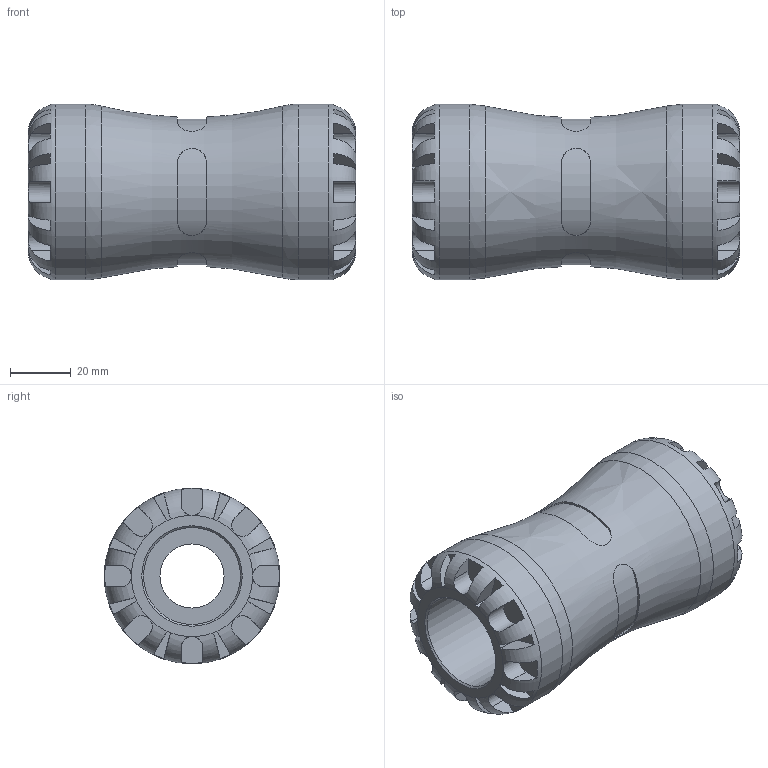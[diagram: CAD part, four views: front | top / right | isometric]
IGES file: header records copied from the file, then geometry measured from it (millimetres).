
Global section: file name: 1001M6032010.ipt; native system: Autodesk Inventor 2015; preprocessor: unknown; author: KIM; date: 20170122.104726; units: millimetre
Bounding box: 108 x 58 x 58 mm (x, y, z)
Volume: 169716.4 mm3; surface area: 34539.2 mm2
Topology: 1 solids, 1 shells, 164 faces, 427 edges, 270 vertices
Faces by surface type: plane 108, revolution 34, cylinder 22
Full cylindrical faces by diameter (mm): 58 x2
